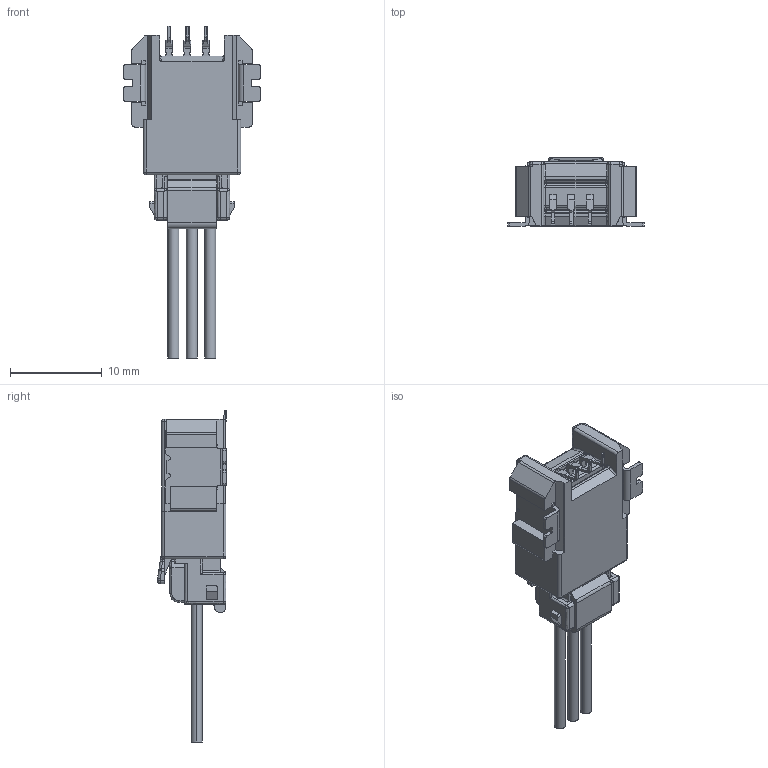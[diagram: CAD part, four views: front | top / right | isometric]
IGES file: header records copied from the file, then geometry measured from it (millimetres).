
Start section: SolidWorks IGES file using analytic representation for surfaces
Global section: file name: C:\Users\08803\Desktop\PDM\ISH全シリーズモデル(STEP)2017.2.6時点\水平\1列\3P\ISH 3P CONNECTOR.IGS; native system: SolidWorks 2017; preprocessor: SolidWorks 2017; author: 08803; date: 180820.135436; units: millimetre
Bounding box: 14.9 x 7.5 x 36.15 mm (x, y, z)
Surface area: 1240.2 mm2 (no closed solid volume)
Topology: 0 solids, 0 shells, 587 faces, 3925 edges, 3901 vertices
Faces by surface type: bspline 367, revolution 220
